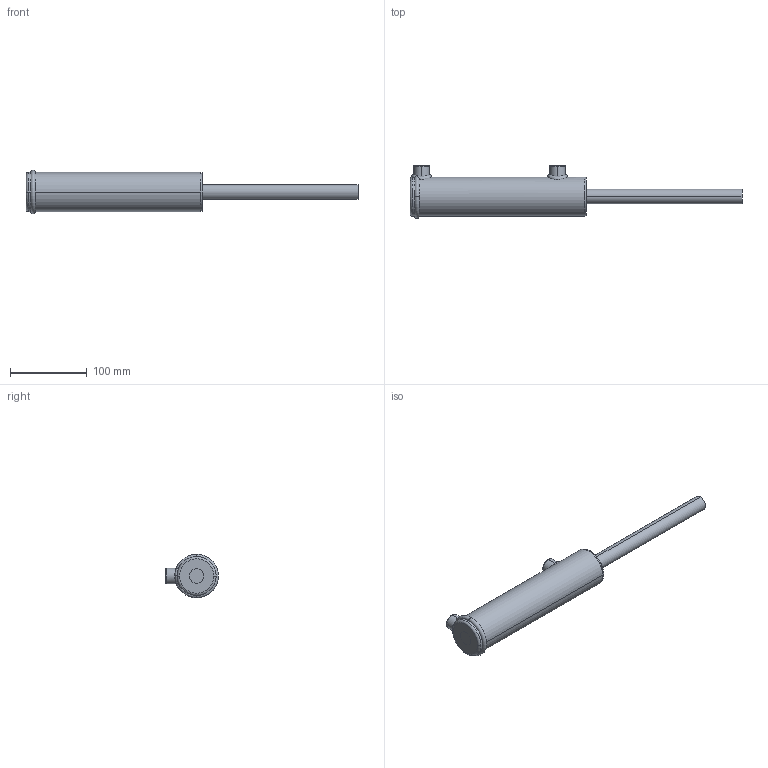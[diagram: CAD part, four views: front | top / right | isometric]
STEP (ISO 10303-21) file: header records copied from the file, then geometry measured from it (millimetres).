
FILE_DESCRIPTION (( 'STEP AP203' ), '1' );
FILE_NAME ('BL150075x152 (6) extended.STEP', '2014-11-23T02:15:30', ( '' ), ( '' ), 'SwSTEP 2.0', 'SolidWorks 2014', '' );
FILE_SCHEMA (( 'CONFIG_CONTROL_DESIGN' ));
Length unit declared in the file: millimetre
Products named in the file (1): BL150075x152 (6) extended
Bounding box: 432 x 68.8 x 56.8 mm (x, y, z)
Volume: 462241.9 mm3; surface area: 71648.5 mm2
Topology: 2 solids, 2 shells, 64 faces, 146 edges, 90 vertices
Faces by surface type: cylinder 20, torus 16, plane 12, bspline 8, cone 8
Entity records: 4329 total; most frequent: CARTESIAN_POINT 2883, DIRECTION 288, ORIENTED_EDGE 284, EDGE_CURVE 142, AXIS2_PLACEMENT_3D 130, VERTEX_POINT 90, CIRCLE 73, EDGE_LOOP 72
